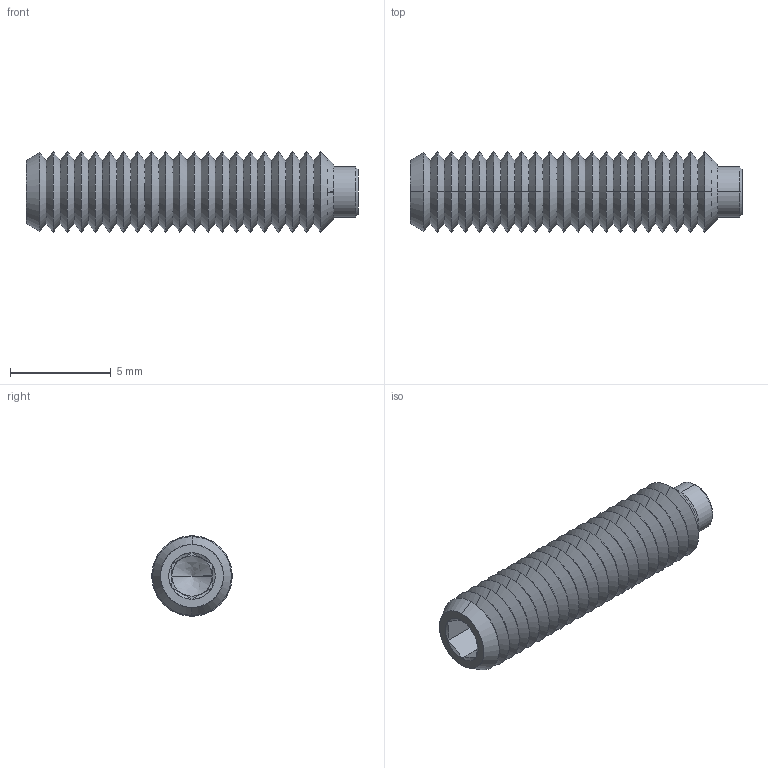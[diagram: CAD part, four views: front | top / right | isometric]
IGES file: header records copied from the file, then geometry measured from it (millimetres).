
Start section: SolidWorks IGES file using analytic representation for surfaces
Global section: file name: C:\Users\IanO\Desktop\P0120_v2_230406\P0120_v2_20230506_IGES\P0120.040-016.igs; native system: SolidWorks 2019; preprocessor: SolidWorks 2019; author: IanO; date: 230406.142239; units: millimetre
Bounding box: 16.5 x 4 x 4 mm (x, y, z)
Surface area: 333.5 mm2 (no closed solid volume)
Topology: 0 solids, 0 shells, 117 faces, 714 edges, 712 vertices
Faces by surface type: revolution 100, bspline 17
